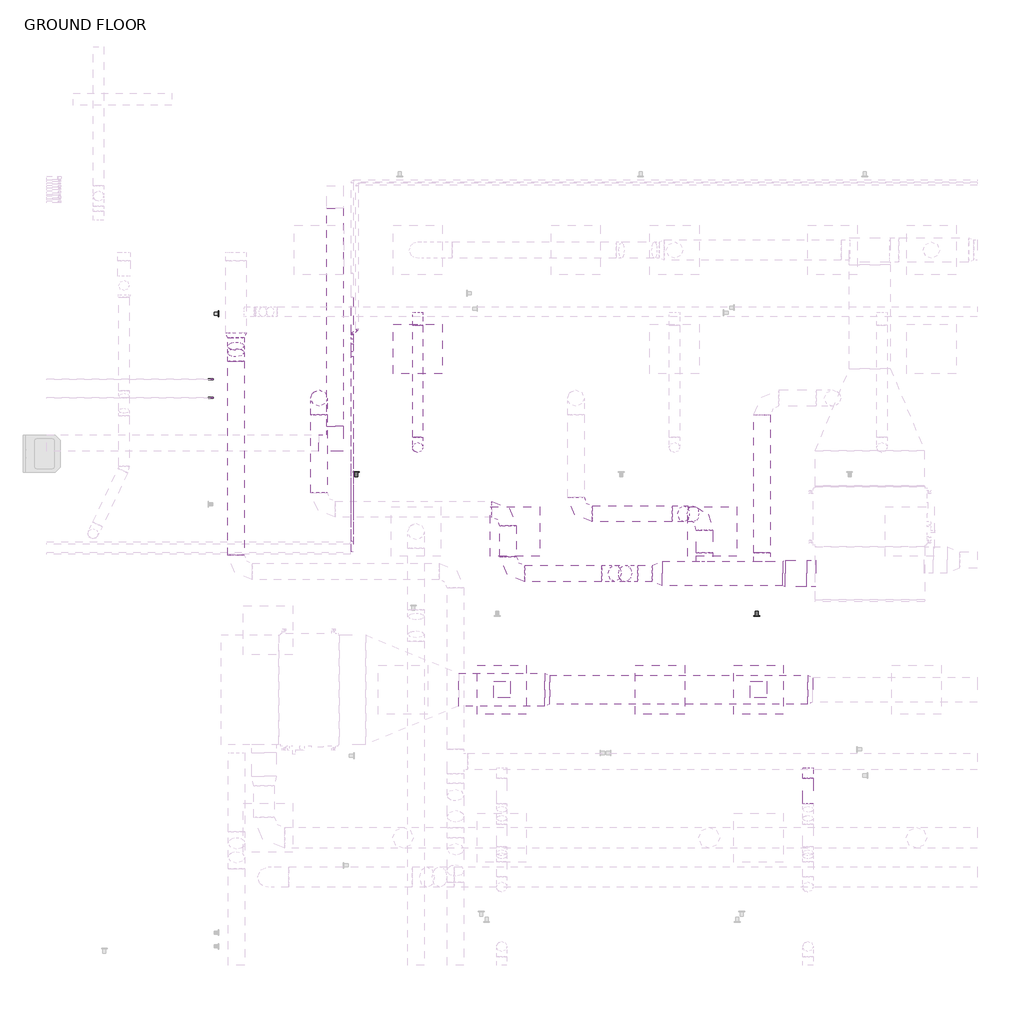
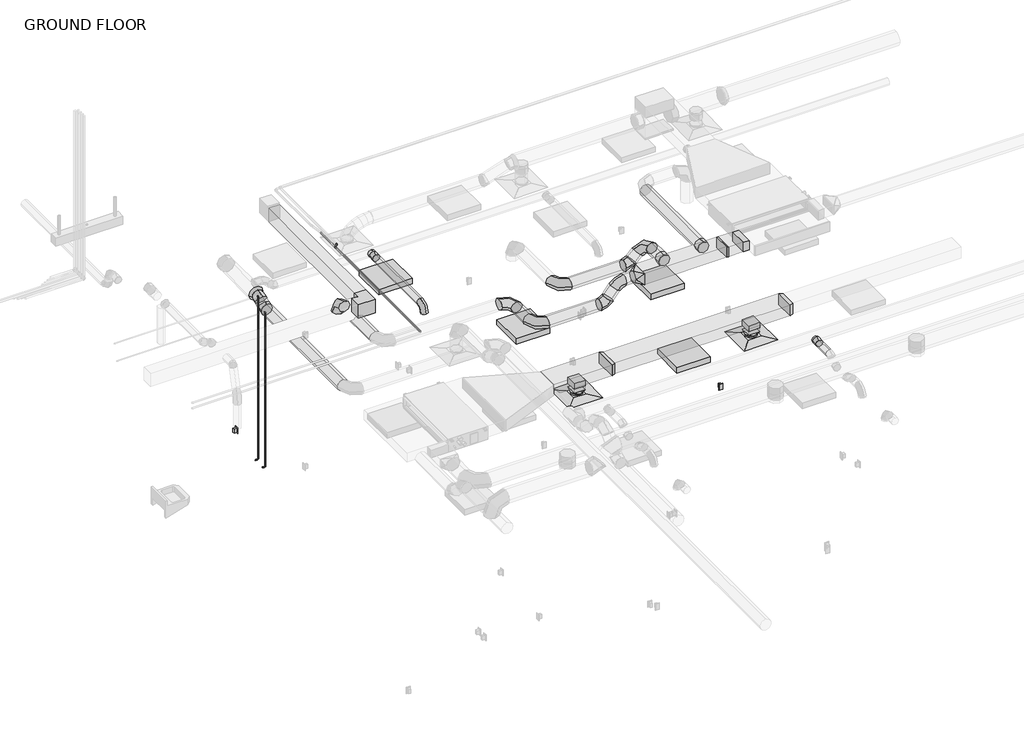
# One storey, part 14 of 20: 26 duct fittings, 22 duct segments, 9 pipe segments, 6 pipe fittings, 4 light fixtures, 2 air terminals, 2 switching devices, 1 proxy.
"""IFC4 building model written with IfcOpenShell, lengths in millimetres."""

from ifc_helpers import new_model, si_unit, point, frame, frame_2d, origin, place, context, project, spatial, polyline, circle_curve, trimmed, segment, composite_curve, outline, extrude, transform, mapped, element, save
from components import air_terminal_e9020785, duplex_receptacle_countertop_10251bba, rectangular_elbow_mitered_transition_standard_eb9bf791, rectangular_takeoff_standard_68f80ab3, rectangular_takeoff_standard_d07ea574, rectangular_transition_angle_45_degree_0521c937, rectangular_transition_angle_45_degree_791ae252, rectangular_transition_angle_45_degree_a1440fe9, rectangular_to_round_transition_angle_45_degree_5a025447, rectangular_to_round_transition_angle_45_degree_f8b25ec9, round_elbow_1_d_fe38274b, round_elbow_1_d_a253342a, round_elbow_1_d_c80420c1, round_elbow_1_d_ab3aa7ba, round_elbow_1_d_20610a6e, round_takeoff_standard_d3b0d0f9, round_takeoff_standard_272bb003, round_takeoff_standard_17dc06e3, round_transition_angle_45_degree_605ec02d, troffer_corner_insert_2x2_3lamp_e67c7f8f, elbow_generic_standard_1964ee4a, elbow_generic_standard_a088f956

model = new_model("IFC4")

# Units and contexts
model_context = context("Model", 3, world=origin())
ifc_project = project(units=[si_unit("LENGTHUNIT", "METRE", prefix="MILLI")], contexts=[model_context])

# Site, building, storey
site = spatial("IfcSite", under=ifc_project)
building = spatial("IfcBuilding", under=site)
storey = spatial("IfcBuildingStorey", under=building, Name="GROUND FLOOR", Elevation=30480.0)

# Air terminals
placement = place(None, origin())
air_terminal_shape = air_terminal_e9020785(model_context)
element("IfcAirTerminal", 1, ObjectType="Supply Diffuser - Rectangular Face Round Neck - Hosted : 24\"x24\" Face 8\" Neck - Hosted", at=placement, inside=storey, context=model_context, shape_type="MappedRepresentation", body=[
    mapped(air_terminal_shape, transform((-799.1454607, 1382.1195005, 33223.2), x_axis=(0.0, -1.0, 0.0), y_axis=(-1.0, 0.0, 0.0), z_axis=(0.0, 0.0, -1.0))),
])
element("IfcAirTerminal", 2, ObjectType="Supply Diffuser - Rectangular Face Round Neck - Hosted : 24\"x24\" Face 8\" Neck - Hosted", at=placement, inside=storey, context=model_context, shape_type="MappedRepresentation", body=[
    mapped(air_terminal_shape, transform((-3970.9704607, 1382.1195005, 33223.2), x_axis=(0.0, -1.0, 0.0), y_axis=(-1.0, 0.0, 0.0), z_axis=(0.0, 0.0, -1.0))),
])

# Proxy
duplex_receptacle_countertop_shape = duplex_receptacle_countertop_10251bba(model_context)
element("IfcBuildingElementProxy", 3, Name="Duplex Receptacle : Standard", ObjectType="Duplex Receptacle : Standard", at=placement, inside=storey, context=model_context, shape_type="MappedRepresentation", body=[
    mapped(duplex_receptacle_countertop_shape, transform((-7469.8204607, 6025.6008767, 30937.2), x_axis=(0.0, 1.0, 0.0), y_axis=(0.0, 0.0, 1.0), z_axis=(1.0, 0.0, 0.0))),
])

# Duct fittings
rectangular_elbow_mitered_transition_standard_shape = rectangular_elbow_mitered_transition_standard_eb9bf791(model_context)
element("IfcDuctFitting", 4, ObjectType="Rectangular Elbow - Mitered - Transition : Standard", at=placement, inside=storey, context=model_context, shape_type="MappedRepresentation", body=[
    mapped(rectangular_elbow_mitered_transition_standard_shape, transform((-6029.8204015, 4430.1195005, 33807.4), x_axis=(1.0, 0.0, 0.0), y_axis=(0.0, 1.0, 0.0), z_axis=(0.0, 0.0, 1.0))),
])
rectangular_takeoff_standard_shape = rectangular_takeoff_standard_68f80ab3(model_context)
element("IfcDuctFitting", 5, ObjectType="Rectangular Takeoff : Standard", at=placement, inside=storey, context=model_context, shape_type="MappedRepresentation", body=[
    mapped(rectangular_takeoff_standard_shape, transform((-101.8689282, 2818.301218, 33947.89375), x_axis=(-1.0, 0.0, 0.0), y_axis=(0.0, 1.0, 0.0), z_axis=(0.0, 0.0, -1.0))),
])
rectangular_takeoff_standard_2_shape = rectangular_takeoff_standard_d07ea574(model_context)
element("IfcDuctFitting", 6, ObjectType="Rectangular Takeoff : Standard", at=placement, inside=storey, context=model_context, shape_type="MappedRepresentation", body=[
    mapped(rectangular_takeoff_standard_2_shape, transform((-799.1454607, 1382.1195005, 33502.6), x_axis=(0.0, 0.0, -1.0), y_axis=(1.0, 0.0, 0.0), z_axis=(0.0, -1.0, 0.0))),
])
element("IfcDuctFitting", 7, ObjectType="Rectangular Takeoff : Standard", at=placement, inside=storey, context=model_context, shape_type="MappedRepresentation", body=[
    mapped(rectangular_takeoff_standard_2_shape, transform((-3970.9704607, 1382.1195005, 33502.6), x_axis=(0.0, 0.0, -1.0), y_axis=(1.0, 0.0, 0.0), z_axis=(0.0, -1.0, 0.0))),
])
rectangular_transition_angle_45_degree_shape = rectangular_transition_angle_45_degree_0521c937(model_context)
element("IfcDuctFitting", 8, ObjectType="Rectangular Transition - Angle : 45 Degree", at=placement, inside=storey, context=model_context, shape_type="MappedRepresentation", body=[
    mapped(rectangular_transition_angle_45_degree_shape, transform((-471.6175144, 2818.301218, 33947.89375), x_axis=(-1.0, 0.0, 0.0), y_axis=(0.0, -1.0, 0.0), z_axis=(0.0, 0.0, 1.0))),
])
rectangular_transition_angle_45_degree_2_shape = rectangular_transition_angle_45_degree_791ae252(model_context)
element("IfcDuctFitting", 9, ObjectType="Rectangular Transition - Angle : 45 Degree", at=placement, inside=storey, context=model_context, shape_type="MappedRepresentation", body=[
    mapped(rectangular_transition_angle_45_degree_2_shape, transform((-3441.5200089, 1382.1195005, 33604.2), x_axis=(1.0, 0.0, 0.0), y_axis=(0.0, 1.0, 0.0), z_axis=(0.0, 0.0, 1.0))),
])
rectangular_transition_angle_45_degree_3_shape = rectangular_transition_angle_45_degree_a1440fe9(model_context)
element("IfcDuctFitting", 10, ObjectType="Rectangular Transition - Angle : 45 Degree", at=placement, inside=storey, context=model_context, shape_type="MappedRepresentation", body=[
    mapped(rectangular_transition_angle_45_degree_3_shape, transform((-189.5454607, 1382.1195005, 33604.2), x_axis=(1.0, 0.0, 0.0), y_axis=(0.0, 1.0, 0.0), z_axis=(0.0, 0.0, 1.0))),
])
rectangular_to_round_transition_angle_45_degree_shape = rectangular_to_round_transition_angle_45_degree_5a025447(model_context)
element("IfcDuctFitting", 11, ObjectType="Rectangular to Round Transition - Angle : 45 Degree", at=placement, inside=storey, context=model_context, shape_type="MappedRepresentation", body=[
    mapped(rectangular_to_round_transition_angle_45_degree_shape, transform((-799.1454607, 1382.1195005, 33327.975), x_axis=(0.0, 0.0, -1.0), y_axis=(1.0, 0.0, 0.0), z_axis=(0.0, -1.0, 0.0))),
])
element("IfcDuctFitting", 12, ObjectType="Rectangular to Round Transition - Angle : 45 Degree", at=placement, inside=storey, context=model_context, shape_type="MappedRepresentation", body=[
    mapped(rectangular_to_round_transition_angle_45_degree_shape, transform((-3970.9704607, 1382.1195005, 33327.975), x_axis=(0.0, 0.0, -1.0), y_axis=(1.0, 0.0, 0.0), z_axis=(0.0, -1.0, 0.0))),
])
rectangular_to_round_transition_angle_45_degree_2_shape = rectangular_to_round_transition_angle_45_degree_f8b25ec9(model_context)
element("IfcDuctFitting", 13, ObjectType="Rectangular to Round Transition - Angle : 45 Degree", at=placement, inside=storey, context=model_context, shape_type="MappedRepresentation", body=[
    mapped(rectangular_to_round_transition_angle_45_degree_2_shape, transform((-1989.2675144, 2818.301218, 33947.89375), x_axis=(-1.0, 0.0, 0.0), y_axis=(0.0, -1.0, 0.0), z_axis=(0.0, 0.0, 1.0))),
])
round_elbow_1_d_shape = round_elbow_1_d_fe38274b(model_context)
element("IfcDuctFitting", 14, ObjectType="Round Elbow : 1 D", at=placement, inside=storey, context=model_context, shape_type="MappedRepresentation", body=[
    mapped(round_elbow_1_d_shape, transform((-2636.3455027, 2818.301218, 33629.6), x_axis=(1.0, 0.0, 0.0), y_axis=(0.0, 0.0, 1.0), z_axis=(0.0, -1.0, 0.0))),
])
element("IfcDuctFitting", 15, ObjectType="Round Elbow : 1 D", at=placement, inside=storey, context=model_context, shape_type="MappedRepresentation", body=[
    mapped(round_elbow_1_d_shape, transform((-2387.6671708, 2818.301218, 33947.89375), x_axis=(0.6156614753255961, 0.0, 0.7880107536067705), y_axis=(0.7880107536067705, 0.0, -0.6156614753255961), z_axis=(0.0, 1.0, 0.0))),
])
round_elbow_1_d_2_shape = round_elbow_1_d_a253342a(model_context)
element("IfcDuctFitting", 16, ObjectType="Round Elbow : 1 D", at=placement, inside=storey, context=model_context, shape_type="MappedRepresentation", body=[
    mapped(round_elbow_1_d_2_shape, transform((-6228.3954607, 4982.5695005, 33629.6), x_axis=(0.0, 0.0, 1.0), y_axis=(0.0, -1.0, 0.0), z_axis=(1.0, 0.0, 0.0))),
])
element("IfcDuctFitting", 17, ObjectType="Round Elbow : 1 D", at=placement, inside=storey, context=model_context, shape_type="MappedRepresentation", body=[
    mapped(round_elbow_1_d_2_shape, transform((-3891.5954607, 3610.9695005, 33629.6), x_axis=(0.0, 1.0, 0.0), y_axis=(-1.0, 0.0, 0.0), z_axis=(0.0, 0.0, 1.0))),
])
element("IfcDuctFitting", 18, ObjectType="Round Elbow : 1 D", at=placement, inside=storey, context=model_context, shape_type="MappedRepresentation", body=[
    mapped(round_elbow_1_d_2_shape, transform((-3891.5954607, 2818.301218, 33629.6), x_axis=(0.0, -1.0, 0.0), y_axis=(1.0, 0.0, 0.0), z_axis=(0.0, 0.0, 1.0))),
])
element("IfcDuctFitting", 19, ObjectType="Round Elbow : 1 D", at=placement, inside=storey, context=model_context, shape_type="MappedRepresentation", body=[
    mapped(round_elbow_1_d_2_shape, transform((-3056.5704607, 3554.901218, 33629.6), x_axis=(0.0, -1.0, 0.0), y_axis=(1.0, 0.0, 0.0), z_axis=(0.0, 0.0, 1.0))),
])
element("IfcDuctFitting", 20, ObjectType="Round Elbow : 1 D", at=placement, inside=storey, context=model_context, shape_type="MappedRepresentation", body=[
    mapped(round_elbow_1_d_2_shape, transform((-1465.5538665, 3554.901218, 33947.89375), x_axis=(0.7071067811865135, 0.0, 0.7071067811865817), y_axis=(0.0, -1.0000000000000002, 0.0), z_axis=(0.7071067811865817, 0.0, -0.7071067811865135))),
])
round_elbow_1_d_3_shape = round_elbow_1_d_c80420c1(model_context)
element("IfcDuctFitting", 21, ObjectType="Round Elbow : 1 D", at=placement, inside=storey, context=model_context, shape_type="MappedRepresentation", body=[
    mapped(round_elbow_1_d_3_shape, transform((-5009.1954607, 4372.9695005, 33464.5), x_axis=(0.0, -1.0, 0.0), y_axis=(0.0, 0.0, -1.0), z_axis=(1.0, 0.0, 0.0))),
])
round_elbow_1_d_4_shape = round_elbow_1_d_ab3aa7ba(model_context)
element("IfcDuctFitting", 22, ObjectType="Round Elbow : 1 D", at=placement, inside=storey, context=model_context, shape_type="MappedRepresentation", body=[
    mapped(round_elbow_1_d_4_shape, transform((-1783.8476165, 3554.901218, 33629.6), x_axis=(-0.7071067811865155, 0.0, -0.7071067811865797), y_axis=(-0.7071067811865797, 0.0, 0.7071067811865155), z_axis=(0.0, 1.0, 0.0))),
])
round_elbow_1_d_5_shape = round_elbow_1_d_20610a6e(model_context)
element("IfcDuctFitting", 23, ObjectType="Round Elbow : 1 D", at=placement, inside=storey, context=model_context, shape_type="MappedRepresentation", body=[
    mapped(round_elbow_1_d_5_shape, transform((-7253.9204607, 5672.1243299, 33629.6), x_axis=(0.0, -1.0, 0.0), y_axis=(0.0, 0.0, -1.0), z_axis=(1.0, 0.0, 0.0))),
])
element("IfcDuctFitting", 24, ObjectType="Round Elbow : 1 D", at=placement, inside=storey, context=model_context, shape_type="MappedRepresentation", body=[
    mapped(round_elbow_1_d_5_shape, transform((-7253.9204607, 5496.1479679, 33528.0), x_axis=(0.0, -0.8660254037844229, -0.5000000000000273), y_axis=(0.0, -0.5000000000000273, 0.8660254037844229), z_axis=(-1.0, 0.0, 0.0))),
])
round_takeoff_standard_shape = round_takeoff_standard_d3b0d0f9(model_context)
element("IfcDuctFitting", 25, ObjectType="Round Takeoff : Standard", at=placement, inside=storey, context=model_context, shape_type="MappedRepresentation", body=[
    mapped(round_takeoff_standard_shape, transform((-754.6339071, 2970.701218, 33947.89375), x_axis=(0.0, 1.0, 0.0), y_axis=(1.0, 0.0, 0.0), z_axis=(0.0, 0.0, -1.0))),
])
element("IfcDuctFitting", 26, ObjectType="Round Takeoff : Standard", at=placement, inside=storey, context=model_context, shape_type="MappedRepresentation", body=[
    mapped(round_takeoff_standard_shape, transform((-1465.5538665, 2970.701218, 33947.89375), x_axis=(0.0, 1.0, 0.0), y_axis=(1.0, 0.0, 0.0), z_axis=(0.0, 0.0, -1.0))),
])
round_takeoff_standard_2_shape = round_takeoff_standard_272bb003(model_context)
element("IfcDuctFitting", 27, ObjectType="Round Takeoff : Standard", at=placement, inside=storey, context=model_context, shape_type="MappedRepresentation", body=[
    mapped(round_takeoff_standard_2_shape, transform((-189.5454607, 391.7414929, 33528.0), x_axis=(0.0, -1.0, 0.0), y_axis=(-1.0, 0.0, 0.0), z_axis=(0.0, 0.0, -1.0))),
])
round_takeoff_standard_3_shape = round_takeoff_standard_17dc06e3(model_context)
element("IfcDuctFitting", 28, ObjectType="Round Takeoff : Standard", at=placement, inside=storey, context=model_context, shape_type="MappedRepresentation", body=[
    mapped(round_takeoff_standard_3_shape, transform((-5009.1954607, 5985.8695005, 33464.5), x_axis=(0.0, -1.0, 0.0), y_axis=(-1.0, 0.0, 0.0), z_axis=(0.0, 0.0, -1.0))),
])
round_transition_angle_45_degree_shape = round_transition_angle_45_degree_605ec02d(model_context)
element("IfcDuctFitting", 29, ObjectType="Round Transition - Angle : 45 Degree", at=placement, inside=storey, context=model_context, shape_type="MappedRepresentation", body=[
    mapped(round_transition_angle_45_degree_shape, transform((-7253.9204607, 5726.5716058, 33629.6), x_axis=(0.0, 1.0, 0.0), y_axis=(-1.0, 0.0, 0.0), z_axis=(0.0, 0.0, 1.0))),
])

# Duct segments
element("IfcDuctSegment", 30, ObjectType="Mitered Elbows / Taps", at=placement, inside=storey, context=model_context, shape_type="SweptSolid", body=[
    extrude(outline(polyline([(-4505.3833638, 1178.9195005), (-4505.3833638, 1585.3195005), (-3441.5200089, 1585.3195005), (-3441.5200089, 1178.9195005), (-4505.3833638, 1178.9195005)])), frame((0.0, 0.0, 33502.6), z_axis=(0.0, 0.0, 1.0), x_axis=(1.0, 0.0, 0.0)), (0.0, 0.0, 1.0), 203.2),
])
element("IfcDuctSegment", 31, ObjectType="Mitered Elbows / Taps", at=placement, inside=storey, context=model_context, shape_type="SweptSolid", body=[
    extrude(outline(polyline([(-3380.1989844, 1204.3195005), (-3380.1989844, 1559.9195005), (-189.5454607, 1559.9195005), (-189.5454607, 1204.3195005), (-3380.1989844, 1204.3195005)])), frame((0.0, 0.0, 33502.6), z_axis=(0.0, 0.0, 1.0), x_axis=(1.0, 0.0, 0.0)), (0.0, 0.0, 1.0), 203.2),
])
element("IfcDuctSegment", 32, ObjectType="Mitered Elbows / Taps", at=placement, inside=storey, context=model_context, shape_type="SweptSolid", body=[
    extrude(outline(polyline([(-900.7454607, 1483.7195005), (-697.5454607, 1483.7195005), (-697.5454607, 1280.5195005), (-900.7454607, 1280.5195005), (-900.7454607, 1483.7195005)])), frame((0.0, 0.0, 33327.975), z_axis=(0.0, 0.0, 1.0), x_axis=(1.0, 0.0, 0.0)), (0.0, 0.0, 1.0), 73.025),
])
element("IfcDuctSegment", 33, ObjectType="Mitered Elbows / Taps", at=placement, inside=storey, context=model_context, shape_type="SweptSolid", body=[
    extrude(outline(polyline([(-4072.5704607, 1483.7195005), (-3869.3704607, 1483.7195005), (-3869.3704607, 1280.5195005), (-4072.5704607, 1280.5195005), (-4072.5704607, 1483.7195005)])), frame((0.0, 0.0, 33327.975), z_axis=(0.0, 0.0, 1.0), x_axis=(1.0, 0.0, 0.0)), (0.0, 0.0, 1.0), 73.025),
])
element("IfcDuctSegment", 34, ObjectType="Mitered Elbows / Taps", at=placement, inside=storey, context=model_context, shape_type="SweptSolid", body=[
    extrude(outline(polyline([(-1989.2675144, 2665.901218), (-1989.2675144, 2970.701218), (-502.2780266, 2970.701218), (-502.2780266, 2665.901218), (-1989.2675144, 2665.901218)])), frame((0.0, 0.0, 33846.29375), z_axis=(0.0, 0.0, 1.0), x_axis=(1.0, 0.0, 0.0)), (0.0, 0.0, 1.0), 203.2),
])
element("IfcDuctSegment", 35, ObjectType="Mitered Elbows / Taps", at=placement, inside=storey, context=model_context, shape_type="SweptSolid", body=[
    extrude(outline(polyline([(-471.6175144, 2653.201218), (-471.6175144, 2983.401218), (-203.4689282, 2983.401218), (-203.4689282, 2653.201218), (-471.6175144, 2653.201218)])), frame((0.0, 0.0, 33858.99375), z_axis=(0.0, 0.0, 1.0), x_axis=(1.0, 0.0, 0.0)), (0.0, 0.0, 1.0), 177.8),
])
element("IfcDuctSegment", 36, ObjectType="Mitered Elbows / Tees", at=placement, inside=storey, context=model_context, shape_type="SweptSolid", body=[
    extrude(outline(polyline([(-6131.4204015, 7325.7195005), (-5928.2204015, 7325.7195005), (-5928.2204015, 4633.3195005), (-6131.4204015, 4633.3195005), (-6131.4204015, 7325.7195005)])), frame((0.0, 0.0, 33680.4), z_axis=(0.0, 0.0, 1.0), x_axis=(1.0, 0.0, 0.0)), (0.0, 0.0, 1.0), 254.0),
])
element("IfcDuctSegment", 37, ObjectType="Taps / Short Radius", at=placement, inside=storey, context=model_context, shape_type="SweptSolid", body=[
    extrude(outline(composite_curve([segment(trimmed(circle_curve(frame_2d((33629.6, -6228.3954607)), 101.6), [point((33629.6, -6329.9954607))], [point((33528.0, -6228.3954607))], False, "CARTESIAN"), True, "CONTINUOUS"), segment(trimmed(circle_curve(frame_2d((33629.6, -6228.3954607)), 101.6), [point((33528.0, -6228.3954607))], [point((33629.6, -6126.7954607))], False, "CARTESIAN"), True, "CONTINUOUS"), segment(trimmed(circle_curve(frame_2d((33629.6, -6228.3954607)), 101.6), [point((33629.6, -6126.7954607))], [point((33731.2, -6228.3954607))], False, "CARTESIAN"), True, "CONTINUOUS"), segment(trimmed(circle_curve(frame_2d((33629.6, -6228.3954607)), 101.6), [point((33731.2, -6228.3954607))], [point((33629.6, -6329.9954607))], False, "CARTESIAN"), True, "CONTINUOUS")], self_intersect=False)), frame((0.0, 3814.1695005, 0.0), z_axis=(0.0, 1.0, 0.0), x_axis=(0.0, 0.0, 1.0)), (0.0, 0.0, 1.0), 965.2),
])
element("IfcDuctSegment", 38, ObjectType="Taps / Short Radius", at=placement, inside=storey, context=model_context, shape_type="SweptSolid", body=[
    extrude(outline(composite_curve([segment(trimmed(circle_curve(frame_2d((33629.6, -3891.5954607)), 101.6), [point((33629.6, -3993.1954607))], [point((33528.0, -3891.5954607))], False, "CARTESIAN"), True, "CONTINUOUS"), segment(trimmed(circle_curve(frame_2d((33629.6, -3891.5954607)), 101.6), [point((33528.0, -3891.5954607))], [point((33629.6, -3789.9954607))], False, "CARTESIAN"), True, "CONTINUOUS"), segment(trimmed(circle_curve(frame_2d((33629.6, -3891.5954607)), 101.6), [point((33629.6, -3789.9954607))], [point((33731.2, -3891.5954607))], False, "CARTESIAN"), True, "CONTINUOUS"), segment(trimmed(circle_curve(frame_2d((33629.6, -3891.5954607)), 101.6), [point((33731.2, -3891.5954607))], [point((33629.6, -3993.1954607))], False, "CARTESIAN"), True, "CONTINUOUS")], self_intersect=False)), frame((0.0, 3021.501218, 0.0), z_axis=(0.0, 1.0, 0.0), x_axis=(0.0, 0.0, 1.0)), (0.0, 0.0, 1.0), 386.2682826),
])
element("IfcDuctSegment", 39, ObjectType="Taps / Short Radius", at=placement, inside=storey, context=model_context, shape_type="SweptSolid", body=[
    extrude(outline(composite_curve([segment(trimmed(circle_curve(frame_2d((-6228.3954607, 4982.5695005)), 101.6), [point((-6228.3954607, 5084.1695005))], [point((-6126.7954607, 4982.5695005))], False, "CARTESIAN"), True, "CONTINUOUS"), segment(trimmed(circle_curve(frame_2d((-6228.3954607, 4982.5695005)), 101.6), [point((-6126.7954607, 4982.5695005))], [point((-6228.3954607, 4880.9695005))], False, "CARTESIAN"), True, "CONTINUOUS"), segment(trimmed(circle_curve(frame_2d((-6228.3954607, 4982.5695005)), 101.6), [point((-6228.3954607, 4880.9695005))], [point((-6329.9954607, 4982.5695005))], False, "CARTESIAN"), True, "CONTINUOUS"), segment(trimmed(circle_curve(frame_2d((-6228.3954607, 4982.5695005)), 101.6), [point((-6329.9954607, 4982.5695005))], [point((-6228.3954607, 5084.1695005))], False, "CARTESIAN"), True, "CONTINUOUS")], self_intersect=False)), frame((0.0, 0.0, 33324.8), z_axis=(0.0, 0.0, 1.0), x_axis=(1.0, 0.0, 0.0)), (0.0, 0.0, 1.0), 101.6),
])
element("IfcDuctSegment", 40, ObjectType="Taps / Short Radius", at=placement, inside=storey, context=model_context, shape_type="SweptSolid", body=[
    extrude(outline(composite_curve([segment(trimmed(circle_curve(frame_2d((33947.89375, -754.6339071)), 101.6), [point((33947.89375, -856.2339071))], [point((33846.29375, -754.6339071))], False, "CARTESIAN"), True, "CONTINUOUS"), segment(trimmed(circle_curve(frame_2d((33947.89375, -754.6339071)), 101.6), [point((33846.29375, -754.6339071))], [point((33947.89375, -653.0339071))], False, "CARTESIAN"), True, "CONTINUOUS"), segment(trimmed(circle_curve(frame_2d((33947.89375, -754.6339071)), 101.6), [point((33947.89375, -653.0339071))], [point((34049.49375, -754.6339071))], False, "CARTESIAN"), True, "CONTINUOUS"), segment(trimmed(circle_curve(frame_2d((33947.89375, -754.6339071)), 101.6), [point((34049.49375, -754.6339071))], [point((33947.89375, -856.2339071))], False, "CARTESIAN"), True, "CONTINUOUS")], self_intersect=False)), frame((0.0, 3072.301218, 0.0), z_axis=(0.0, 1.0, 0.0), x_axis=(0.0, 0.0, 1.0)), (0.0, 0.0, 1.0), 1707.0682826),
])
element("IfcDuctSegment", 41, ObjectType="Taps / Short Radius", at=placement, inside=storey, context=model_context, shape_type="SweptSolid", body=[
    extrude(outline(composite_curve([segment(trimmed(circle_curve(frame_2d((0.0, 63.5)), 63.5), [point((-63.5, 63.5))], [point((0.0, 127.0))], False, "CARTESIAN"), True, "CONTINUOUS"), segment(trimmed(circle_curve(frame_2d((0.0, 63.5)), 63.5), [point((0.0, 127.0))], [point((63.5, 63.5))], False, "CARTESIAN"), True, "CONTINUOUS"), segment(trimmed(circle_curve(frame_2d((0.0, 63.5)), 63.5), [point((63.5, 63.5))], [point((0.0, 0.0))], False, "CARTESIAN"), True, "CONTINUOUS"), segment(trimmed(circle_curve(frame_2d((0.0, 63.5)), 63.5), [point((0.0, 0.0))], [point((-63.5, 63.5))], False, "CARTESIAN"), True, "CONTINUOUS")], self_intersect=False)), frame((-5009.1954607, 4309.4695005, 33324.8), z_axis=(0.0, -1.023181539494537e-12, 1.0), x_axis=(1.0, 0.0, 0.0)), (0.0, 0.0, 1.0), 12.7),
])
element("IfcDuctSegment", 42, ObjectType="Taps / Short Radius", at=placement, inside=storey, context=model_context, shape_type="SweptSolid", body=[
    extrude(outline(composite_curve([segment(trimmed(circle_curve(frame_2d((33464.5, -5009.1954607)), 63.5), [point((33464.5, -5072.6954607))], [point((33401.0, -5009.1954607))], False, "CARTESIAN"), True, "CONTINUOUS"), segment(trimmed(circle_curve(frame_2d((33464.5, -5009.1954607)), 63.5), [point((33401.0, -5009.1954607))], [point((33464.5, -4945.6954607))], False, "CARTESIAN"), True, "CONTINUOUS"), segment(trimmed(circle_curve(frame_2d((33464.5, -5009.1954607)), 63.5), [point((33464.5, -4945.6954607))], [point((33528.0, -5009.1954607))], False, "CARTESIAN"), True, "CONTINUOUS"), segment(trimmed(circle_curve(frame_2d((33464.5, -5009.1954607)), 63.5), [point((33528.0, -5009.1954607))], [point((33464.5, -5072.6954607))], False, "CARTESIAN"), True, "CONTINUOUS")], self_intersect=False)), frame((0.0, 4499.9695005, 0.0), z_axis=(0.0, 1.0, 0.0), x_axis=(0.0, 0.0, 1.0)), (0.0, 0.0, 1.0), 1384.3),
])
element("IfcDuctSegment", 43, ObjectType="Taps / Short Radius", at=placement, inside=storey, context=model_context, shape_type="SweptSolid", body=[
    extrude(outline(composite_curve([segment(trimmed(circle_curve(frame_2d((33528.0, -7253.9204607)), 101.6), [point((33528.0, -7355.5204607))], [point((33426.4, -7253.9204607))], False, "CARTESIAN"), True, "CONTINUOUS"), segment(trimmed(circle_curve(frame_2d((33528.0, -7253.9204607)), 101.6), [point((33426.4, -7253.9204607))], [point((33528.0, -7152.3204607))], False, "CARTESIAN"), True, "CONTINUOUS"), segment(trimmed(circle_curve(frame_2d((33528.0, -7253.9204607)), 101.6), [point((33528.0, -7152.3204607))], [point((33629.6, -7253.9204607))], False, "CARTESIAN"), True, "CONTINUOUS"), segment(trimmed(circle_curve(frame_2d((33528.0, -7253.9204607)), 101.6), [point((33629.6, -7253.9204607))], [point((33528.0, -7355.5204607))], False, "CARTESIAN"), True, "CONTINUOUS")], self_intersect=False)), frame((0.0, 3045.096647, 0.0), z_axis=(0.0, 1.0, 0.0), x_axis=(0.0, 0.0, 1.0)), (0.0, 0.0, 1.0), 2396.604045),
])
element("IfcDuctSegment", 44, ObjectType="Taps / Short Radius", at=placement, inside=storey, context=model_context, shape_type="SweptSolid", body=[
    extrude(outline(composite_curve([segment(trimmed(circle_curve(frame_2d((0.0, -101.6000001)), 101.6), [point((-101.6, -101.6000001))], [point((0.0, 0.0))], False, "CARTESIAN"), True, "CONTINUOUS"), segment(trimmed(circle_curve(frame_2d((0.0, -101.6000001)), 101.6), [point((0.0, 0.0))], [point((101.6, -101.6000001))], False, "CARTESIAN"), True, "CONTINUOUS"), segment(trimmed(circle_curve(frame_2d((0.0, -101.6000001)), 101.6), [point((101.6, -101.6000001))], [point((0.0, -203.2))], False, "CARTESIAN"), True, "CONTINUOUS"), segment(trimmed(circle_curve(frame_2d((0.0, -101.6000001)), 101.6), [point((0.0, -203.2))], [point((-101.6, -101.6000001))], False, "CARTESIAN"), True, "CONTINUOUS")], self_intersect=False)), frame((-7253.9204607, 5594.100692, 33467.2354569), z_axis=(0.0, 0.8660254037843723, 0.5000000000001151), x_axis=(1.0, 0.0, 0.0)), (0.0, 0.0, 1.0), 94.3054482),
])
element("IfcDuctSegment", 45, ObjectType="Taps / Short Radius", at=placement, inside=storey, context=model_context, shape_type="SweptSolid", body=[
    extrude(outline(composite_curve([segment(trimmed(circle_curve(frame_2d((33528.0, -189.5454607)), 63.5), [point((33528.0, -126.0454607))], [point((33591.5, -189.5454607))], False, "CARTESIAN"), True, "CONTINUOUS"), segment(trimmed(circle_curve(frame_2d((33528.0, -189.5454607)), 63.5), [point((33591.5, -189.5454607))], [point((33528.0, -253.0454607))], False, "CARTESIAN"), True, "CONTINUOUS"), segment(trimmed(circle_curve(frame_2d((33528.0, -189.5454607)), 63.5), [point((33528.0, -253.0454607))], [point((33464.5, -189.5454607))], False, "CARTESIAN"), True, "CONTINUOUS"), segment(trimmed(circle_curve(frame_2d((33528.0, -189.5454607)), 63.5), [point((33464.5, -189.5454607))], [point((33528.0, -126.0454607))], False, "CARTESIAN"), True, "CONTINUOUS")], self_intersect=False)), frame((0.0, -23.6803249, 0.0), z_axis=(0.0, 1.0, 0.0), x_axis=(0.0, 0.0, 1.0)), (0.0, 0.0, 1.0), 313.8218179),
])
element("IfcDuctSegment", 46, ObjectType="Taps / Short Radius", at=placement, inside=storey, context=model_context, shape_type="SweptSolid", body=[
    extrude(outline(composite_curve([segment(trimmed(circle_curve(frame_2d((2818.301218, 33629.6)), 101.6), [point((2716.701218, 33629.6))], [point((2818.301218, 33731.2))], False, "CARTESIAN"), True, "CONTINUOUS"), segment(trimmed(circle_curve(frame_2d((2818.301218, 33629.6)), 101.6), [point((2818.301218, 33731.2))], [point((2919.901218, 33629.6))], False, "CARTESIAN"), True, "CONTINUOUS"), segment(trimmed(circle_curve(frame_2d((2818.301218, 33629.6)), 101.6), [point((2919.901218, 33629.6))], [point((2818.301218, 33528.0))], False, "CARTESIAN"), True, "CONTINUOUS"), segment(trimmed(circle_curve(frame_2d((2818.301218, 33629.6)), 101.6), [point((2818.301218, 33528.0))], [point((2716.701218, 33629.6))], False, "CARTESIAN"), True, "CONTINUOUS")], self_intersect=False)), frame((-3688.3954607, 0.0, 0.0), z_axis=(1.0, 0.0, 0.0), x_axis=(0.0, 1.0, 0.0)), (0.0, 0.0, 1.0), 952.942696),
])
element("IfcDuctSegment", 47, ObjectType="Taps / Short Radius", at=placement, inside=storey, context=model_context, shape_type="SweptSolid", body=[
    extrude(outline(composite_curve([segment(trimmed(circle_curve(frame_2d((0.0, 101.6)), 101.6), [point((0.0, 0.0))], [point((-101.6, 101.6))], False, "CARTESIAN"), True, "CONTINUOUS"), segment(trimmed(circle_curve(frame_2d((0.0, 101.6)), 101.6), [point((-101.6, 101.6))], [point((0.0, 203.2))], False, "CARTESIAN"), True, "CONTINUOUS"), segment(trimmed(circle_curve(frame_2d((0.0, 101.6)), 101.6), [point((0.0, 203.2))], [point((101.6, 101.6))], False, "CARTESIAN"), True, "CONTINUOUS"), segment(trimmed(circle_curve(frame_2d((0.0, 101.6)), 101.6), [point((101.6, 101.6))], [point((0.0, 0.0))], False, "CARTESIAN"), True, "CONTINUOUS")], self_intersect=False)), frame((-2575.3289795, 2716.701218, 33707.6975882), z_axis=(0.6156614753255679, 0.0, 0.7880107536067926), x_axis=(0.7880107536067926, 0.0, -0.6156614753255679)), (0.0, 0.0, 1.0), 205.7060425),
])
element("IfcDuctSegment", 48, ObjectType="Taps / Short Radius", at=placement, inside=storey, context=model_context, shape_type="SweptSolid", body=[
    extrude(outline(composite_curve([segment(trimmed(circle_curve(frame_2d((2818.301218, 33947.89375)), 101.6), [point((2919.901218, 33947.89375))], [point((2818.301218, 33846.29375))], False, "CARTESIAN"), True, "CONTINUOUS"), segment(trimmed(circle_curve(frame_2d((2818.301218, 33947.89375)), 101.6), [point((2818.301218, 33846.29375))], [point((2716.701218, 33947.89375))], False, "CARTESIAN"), True, "CONTINUOUS"), segment(trimmed(circle_curve(frame_2d((2818.301218, 33947.89375)), 101.6), [point((2716.701218, 33947.89375))], [point((2818.301218, 34049.49375))], False, "CARTESIAN"), True, "CONTINUOUS"), segment(trimmed(circle_curve(frame_2d((2818.301218, 33947.89375)), 101.6), [point((2818.301218, 34049.49375))], [point((2919.901218, 33947.89375))], False, "CARTESIAN"), True, "CONTINUOUS")], self_intersect=False)), frame((-2288.5599088, 0.0, 0.0), z_axis=(1.0, 0.0, 0.0), x_axis=(0.0, 1.0, 0.0)), (0.0, 0.0, 1.0), 176.6503454),
])
element("IfcDuctSegment", 49, ObjectType="Taps / Short Radius", at=placement, inside=storey, context=model_context, shape_type="SweptSolid", body=[
    extrude(outline(composite_curve([segment(trimmed(circle_curve(frame_2d((33947.89375, -1465.5538665)), 101.6), [point((33947.89375, -1567.1538665))], [point((33846.29375, -1465.5538665))], False, "CARTESIAN"), True, "CONTINUOUS"), segment(trimmed(circle_curve(frame_2d((33947.89375, -1465.5538665)), 101.6), [point((33846.29375, -1465.5538665))], [point((33947.89375, -1363.9538665))], False, "CARTESIAN"), True, "CONTINUOUS"), segment(trimmed(circle_curve(frame_2d((33947.89375, -1465.5538665)), 101.6), [point((33947.89375, -1363.9538665))], [point((34049.49375, -1465.5538665))], False, "CARTESIAN"), True, "CONTINUOUS"), segment(trimmed(circle_curve(frame_2d((33947.89375, -1465.5538665)), 101.6), [point((34049.49375, -1465.5538665))], [point((33947.89375, -1567.1538665))], False, "CARTESIAN"), True, "CONTINUOUS")], self_intersect=False)), frame((0.0, 3072.301218, 0.0), z_axis=(0.0, 1.0, 0.0), x_axis=(0.0, 0.0, 1.0)), (0.0, 0.0, 1.0), 279.4),
])
element("IfcDuctSegment", 50, ObjectType="Taps / Short Radius", at=placement, inside=storey, context=model_context, shape_type="SweptSolid", body=[
    extrude(outline(composite_curve([segment(trimmed(circle_curve(frame_2d((0.0, -101.6)), 101.6), [point((0.0, 0.0))], [point((101.6, -101.6))], False, "CARTESIAN"), True, "CONTINUOUS"), segment(trimmed(circle_curve(frame_2d((0.0, -101.6)), 101.6), [point((101.6, -101.6))], [point((0.0, -203.2))], False, "CARTESIAN"), True, "CONTINUOUS"), segment(trimmed(circle_curve(frame_2d((0.0, -101.6)), 101.6), [point((0.0, -203.2))], [point((-101.6, -101.6))], False, "CARTESIAN"), True, "CONTINUOUS"), segment(trimmed(circle_curve(frame_2d((0.0, -101.6)), 101.6), [point((-101.6, -101.6))], [point((0.0, 0.0))], False, "CARTESIAN"), True, "CONTINUOUS")], self_intersect=False)), frame((-1724.3317144, 3656.501218, 33689.1159021), z_axis=(0.7071067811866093, 0.0, 0.7071067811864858), x_axis=(0.7071067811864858, 0.0, -0.7071067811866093)), (0.0, 0.0, 1.0), 162.7671422),
])
element("IfcDuctSegment", 51, ObjectType="Taps / Short Radius", at=placement, inside=storey, context=model_context, shape_type="SweptSolid", body=[
    extrude(outline(composite_curve([segment(trimmed(circle_curve(frame_2d((3554.901218, 33629.6)), 101.6), [point((3453.301218, 33629.6))], [point((3554.901218, 33731.2))], False, "CARTESIAN"), True, "CONTINUOUS"), segment(trimmed(circle_curve(frame_2d((3554.901218, 33629.6)), 101.6), [point((3554.901218, 33731.2))], [point((3656.501218, 33629.6))], False, "CARTESIAN"), True, "CONTINUOUS"), segment(trimmed(circle_curve(frame_2d((3554.901218, 33629.6)), 101.6), [point((3656.501218, 33629.6))], [point((3554.901218, 33528.0))], False, "CARTESIAN"), True, "CONTINUOUS"), segment(trimmed(circle_curve(frame_2d((3554.901218, 33629.6)), 101.6), [point((3554.901218, 33528.0))], [point((3453.301218, 33629.6))], False, "CARTESIAN"), True, "CONTINUOUS")], self_intersect=False)), frame((-2853.3704607, 0.0, 0.0), z_axis=(1.0, 0.0, 0.0), x_axis=(0.0, 1.0, 0.0)), (0.0, 0.0, 1.0), 985.3546483),
])

# Light fixtures
troffer_corner_insert_2x2_3lamp_shape = troffer_corner_insert_2x2_3lamp_e67c7f8f(model_context)
element("IfcLightFixture", 52, ObjectType="Troffer Corner Insert : 2x2 3Lamp", at=placement, inside=storey, context=model_context, shape_type="MappedRepresentation", body=[
    mapped(troffer_corner_insert_2x2_3lamp_shape, transform((-5009.1954607, 5592.1695005, 30784.8), x_axis=(1.0, 0.0, 0.0), y_axis=(0.0, 1.0, 0.0), z_axis=(0.0, 0.0, 1.0))),
])
element("IfcLightFixture", 53, ObjectType="Troffer Corner Insert : 2x2 3Lamp", at=placement, inside=storey, context=model_context, shape_type="MappedRepresentation", body=[
    mapped(troffer_corner_insert_2x2_3lamp_shape, transform((-3809.0454607, 3334.7445005, 30784.8), x_axis=(1.0, 0.0, 0.0), y_axis=(0.0, 1.0, 0.0), z_axis=(0.0, 0.0, 1.0))),
])
element("IfcLightFixture", 54, ObjectType="Troffer Corner Insert : 2x2 3Lamp", at=placement, inside=storey, context=model_context, shape_type="MappedRepresentation", body=[
    mapped(troffer_corner_insert_2x2_3lamp_shape, transform((-1370.6454607, 3334.7445005, 30784.8), x_axis=(1.0, 0.0, 0.0), y_axis=(0.0, 1.0, 0.0), z_axis=(0.0, 0.0, 1.0))),
])
element("IfcLightFixture", 55, ObjectType="Troffer Corner Insert : 2x2 3Lamp", at=placement, inside=storey, context=model_context, shape_type="MappedRepresentation", body=[
    mapped(troffer_corner_insert_2x2_3lamp_shape, transform((-2018.3454607, 1382.1195005, 30784.8), x_axis=(1.0, 0.0, 0.0), y_axis=(0.0, 1.0, 0.0), z_axis=(0.0, 0.0, 1.0))),
])

# Pipe fittings
elbow_generic_standard_shape = elbow_generic_standard_1964ee4a(model_context)
element("IfcPipeFitting", 56, ObjectType="Elbow - Generic : Standard", at=placement, inside=storey, context=model_context, shape_type="MappedRepresentation", body=[
    mapped(elbow_generic_standard_shape, transform((-5818.8204607, 5772.7504162, 34023.2999997), x_axis=(-0.7071067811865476, -0.7071067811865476, 0.0), y_axis=(0.7071067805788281, -0.7071067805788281, -4.1459500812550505e-05), z_axis=(2.931629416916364e-05, -2.931629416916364e-05, 0.9999999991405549))),
])
element("IfcPipeFitting", 57, ObjectType="Elbow - Generic : Standard", at=placement, inside=storey, context=model_context, shape_type="MappedRepresentation", body=[
    mapped(elbow_generic_standard_shape, transform((-5760.4443281, 5831.1265488, 34023.2999997), x_axis=(0.7071067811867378, 0.7071067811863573, 0.0), y_axis=(-0.7071067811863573, 0.7071067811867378, 0.0), z_axis=(0.0, 0.0, 1.0))),
])
elbow_generic_standard_2_shape = elbow_generic_standard_a088f956(model_context)
element("IfcPipeFitting", 58, ObjectType="Elbow - Generic : Standard", at=placement, inside=storey, context=model_context, shape_type="MappedRepresentation", body=[
    mapped(elbow_generic_standard_2_shape, transform((-7542.8454607, 5217.5195005, 30886.4), x_axis=(1.0, 0.0, 0.0), y_axis=(0.0, 0.0, 1.0), z_axis=(0.0, -1.0, 0.0))),
])
element("IfcPipeFitting", 59, ObjectType="Elbow - Generic : Standard", at=placement, inside=storey, context=model_context, shape_type="MappedRepresentation", body=[
    mapped(elbow_generic_standard_2_shape, transform((-7542.8454607, 5217.5195005, 34023.3), x_axis=(0.0, 0.0, 1.0), y_axis=(-1.0, 0.0, 0.0), z_axis=(0.0, -1.0, 0.0))),
])
element("IfcPipeFitting", 60, ObjectType="Elbow - Generic : Standard", at=placement, inside=storey, context=model_context, shape_type="MappedRepresentation", body=[
    mapped(elbow_generic_standard_2_shape, transform((-7542.8454607, 4988.9195005, 30886.4), x_axis=(1.0, 0.0, 0.0), y_axis=(0.0, 0.0, 1.0), z_axis=(0.0, -1.0, 0.0))),
])
element("IfcPipeFitting", 61, ObjectType="Elbow - Generic : Standard", at=placement, inside=storey, context=model_context, shape_type="MappedRepresentation", body=[
    mapped(elbow_generic_standard_2_shape, transform((-7542.8454607, 4988.9195005, 33855.358114), x_axis=(0.0, 0.0, 1.0), y_axis=(-1.0, 0.0, 0.0), z_axis=(0.0, -1.0, 0.0))),
])

# Pipe segments
element("IfcPipeSegment", 62, ObjectType="Copper Tubing", at=placement, inside=storey, context=model_context, shape_type="SweptSolid", body=[
    extrude(outline(composite_curve([segment(trimmed(circle_curve(frame_2d((5217.5195005, 30886.4)), 7.9375), [point((5209.5820005, 30886.4))], [point((5217.5195005, 30894.3375))], False, "CARTESIAN"), True, "CONTINUOUS"), segment(trimmed(circle_curve(frame_2d((5217.5195005, 30886.4)), 7.9375), [point((5217.5195005, 30894.3375))], [point((5225.4570005, 30886.4))], False, "CARTESIAN"), True, "CONTINUOUS"), segment(trimmed(circle_curve(frame_2d((5217.5195005, 30886.4)), 7.9375), [point((5225.4570005, 30886.4))], [point((5217.5195005, 30878.4625))], False, "CARTESIAN"), True, "CONTINUOUS"), segment(trimmed(circle_curve(frame_2d((5217.5195005, 30886.4)), 7.9375), [point((5217.5195005, 30878.4625))], [point((5209.5820005, 30886.4))], False, "CARTESIAN"), True, "CONTINUOUS")], self_intersect=False)), frame((-7593.6454607, 0.0, 0.0), z_axis=(1.0, 0.0, 0.0), x_axis=(0.0, 1.0, 0.0)), (0.0, 0.0, 1.0), 36.5125),
])
element("IfcPipeSegment", 63, ObjectType="Copper Tubing", at=placement, inside=storey, context=model_context, shape_type="SweptSolid", body=[
    extrude(outline(composite_curve([segment(trimmed(circle_curve(frame_2d((-7542.8454607, 5217.5195005)), 7.9375), [point((-7550.7829607, 5217.5195005))], [point((-7542.8454607, 5225.4570005))], False, "CARTESIAN"), True, "CONTINUOUS"), segment(trimmed(circle_curve(frame_2d((-7542.8454607, 5217.5195005)), 7.9375), [point((-7542.8454607, 5225.4570005))], [point((-7534.9079607, 5217.5195005))], False, "CARTESIAN"), True, "CONTINUOUS"), segment(trimmed(circle_curve(frame_2d((-7542.8454607, 5217.5195005)), 7.9375), [point((-7534.9079607, 5217.5195005))], [point((-7542.8454607, 5209.5820005))], False, "CARTESIAN"), True, "CONTINUOUS"), segment(trimmed(circle_curve(frame_2d((-7542.8454607, 5217.5195005)), 7.9375), [point((-7542.8454607, 5209.5820005))], [point((-7550.7829607, 5217.5195005))], False, "CARTESIAN"), True, "CONTINUOUS")], self_intersect=False)), frame((0.0, 0.0, 30900.6875), z_axis=(0.0, 0.0, 1.0), x_axis=(1.0, 0.0, 0.0)), (0.0, 0.0, 1.0), 3108.325),
])
element("IfcPipeSegment", 64, ObjectType="Copper Tubing", at=placement, inside=storey, context=model_context, shape_type="SweptSolid", body=[
    extrude(outline(composite_curve([segment(trimmed(circle_curve(frame_2d((4988.9195005, 30886.4)), 7.9375), [point((4980.9820005, 30886.4))], [point((4988.9195005, 30894.3375))], False, "CARTESIAN"), True, "CONTINUOUS"), segment(trimmed(circle_curve(frame_2d((4988.9195005, 30886.4)), 7.9375), [point((4988.9195005, 30894.3375))], [point((4996.8570005, 30886.4))], False, "CARTESIAN"), True, "CONTINUOUS"), segment(trimmed(circle_curve(frame_2d((4988.9195005, 30886.4)), 7.9375), [point((4996.8570005, 30886.4))], [point((4988.9195005, 30878.4625))], False, "CARTESIAN"), True, "CONTINUOUS"), segment(trimmed(circle_curve(frame_2d((4988.9195005, 30886.4)), 7.9375), [point((4988.9195005, 30878.4625))], [point((4980.9820005, 30886.4))], False, "CARTESIAN"), True, "CONTINUOUS")], self_intersect=False)), frame((-7593.6454607, 0.0, 0.0), z_axis=(1.0, 0.0, 0.0), x_axis=(0.0, 1.0, 0.0)), (0.0, 0.0, 1.0), 36.5125),
])
element("IfcPipeSegment", 65, ObjectType="Copper Tubing", at=placement, inside=storey, context=model_context, shape_type="SweptSolid", body=[
    extrude(outline(composite_curve([segment(trimmed(circle_curve(frame_2d((-7542.8454607, 4988.9195005)), 7.9375), [point((-7550.7829607, 4988.9195005))], [point((-7542.8454607, 4996.8570005))], False, "CARTESIAN"), True, "CONTINUOUS"), segment(trimmed(circle_curve(frame_2d((-7542.8454607, 4988.9195005)), 7.9375), [point((-7542.8454607, 4996.8570005))], [point((-7534.9079607, 4988.9195005))], False, "CARTESIAN"), True, "CONTINUOUS"), segment(trimmed(circle_curve(frame_2d((-7542.8454607, 4988.9195005)), 7.9375), [point((-7534.9079607, 4988.9195005))], [point((-7542.8454607, 4980.9820005))], False, "CARTESIAN"), True, "CONTINUOUS"), segment(trimmed(circle_curve(frame_2d((-7542.8454607, 4988.9195005)), 7.9375), [point((-7542.8454607, 4980.9820005))], [point((-7550.7829607, 4988.9195005))], False, "CARTESIAN"), True, "CONTINUOUS")], self_intersect=False)), frame((0.0, 0.0, 30900.6875), z_axis=(0.0, 0.0, 1.0), x_axis=(1.0, 0.0, 0.0)), (0.0, 0.0, 1.0), 2940.383114),
])
element("IfcPipeSegment", 66, ObjectType="Copper Tubing", at=placement, inside=storey, context=model_context, shape_type="SweptSolid", body=[
    extrude(outline(composite_curve([segment(trimmed(circle_curve(frame_2d((34023.3, -5818.8204607)), 14.2875), [point((34023.3, -5804.5329607))], [point((34037.5875, -5818.8204607))], False, "CARTESIAN"), True, "CONTINUOUS"), segment(trimmed(circle_curve(frame_2d((34023.3, -5818.8204607)), 14.2875), [point((34037.5875, -5818.8204607))], [point((34023.3, -5833.1079607))], False, "CARTESIAN"), True, "CONTINUOUS"), segment(trimmed(circle_curve(frame_2d((34023.3, -5818.8204607)), 14.2875), [point((34023.3, -5833.1079607))], [point((34009.0125, -5818.8204607))], False, "CARTESIAN"), True, "CONTINUOUS"), segment(trimmed(circle_curve(frame_2d((34023.3, -5818.8204607)), 14.2875), [point((34009.0125, -5818.8204607))], [point((34023.3, -5804.5329607))], False, "CARTESIAN"), True, "CONTINUOUS")], self_intersect=False)), frame((0.0, 5556.8593518, 0.0), z_axis=(0.0, 1.0, 0.0), x_axis=(0.0, 0.0, 1.0)), (0.0, 0.0, 1.0), 669.9491422),
])
element("IfcPipeSegment", 67, ObjectType="Copper Tubing", at=placement, inside=storey, context=model_context, shape_type="SweptSolid", body=[
    extrude(outline(composite_curve([segment(trimmed(circle_curve(frame_2d((34023.2997144, -5818.8204607)), 14.2875), [point((34023.2997144, -5804.5329607))], [point((34037.5872144, -5818.8204607))], False, "CARTESIAN"), True, "CONTINUOUS"), segment(trimmed(circle_curve(frame_2d((34023.2997144, -5818.8204607)), 14.2875), [point((34037.5872144, -5818.8204607))], [point((34023.2997144, -5833.1079607))], False, "CARTESIAN"), True, "CONTINUOUS"), segment(trimmed(circle_curve(frame_2d((34023.2997144, -5818.8204607)), 14.2875), [point((34023.2997144, -5833.1079607))], [point((34009.0122144, -5818.8204607))], False, "CARTESIAN"), True, "CONTINUOUS"), segment(trimmed(circle_curve(frame_2d((34023.2997144, -5818.8204607)), 14.2875), [point((34009.0122144, -5818.8204607))], [point((34023.2997144, -5804.5329607))], False, "CARTESIAN"), True, "CONTINUOUS")], self_intersect=False)), frame((0.0, 5709.2593518, 0.0), z_axis=(0.0, 1.0, 0.0), x_axis=(0.0, 0.0, 1.0)), (0.0, 0.0, 1.0), 54.942732),
])
element("IfcPipeSegment", 68, ObjectType="Copper Tubing", at=placement, inside=storey, context=model_context, shape_type="SweptSolid", body=[
    extrude(outline(composite_curve([segment(trimmed(circle_curve(frame_2d((0.0, 14.2875)), 14.2875), [point((14.2874999, 14.2875))], [point((0.0, 0.0))], False, "CARTESIAN"), True, "CONTINUOUS"), segment(trimmed(circle_curve(frame_2d((0.0, 14.2875)), 14.2875), [point((0.0, 0.0))], [point((-14.2875, 14.2875))], False, "CARTESIAN"), True, "CONTINUOUS"), segment(trimmed(circle_curve(frame_2d((0.0, 14.2875)), 14.2875), [point((-14.2875, 14.2875))], [point((0.0, 28.575))], False, "CARTESIAN"), True, "CONTINUOUS"), segment(trimmed(circle_curve(frame_2d((0.0, 14.2875)), 14.2875), [point((0.0, 28.575))], [point((14.2874999, 14.2875))], False, "CARTESIAN"), True, "CONTINUOUS")], self_intersect=False)), frame((-5812.7758769, 5778.795, 34037.5874997), z_axis=(0.7071067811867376, 0.7071067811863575, 0.0), x_axis=(0.7071067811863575, -0.7071067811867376, 0.0)), (0.0, 0.0, 1.0), 65.4596536),
])
element("IfcPipeSegment", 69, ObjectType="Copper Tubing", at=placement, inside=storey, context=model_context, shape_type="SweptSolid", body=[
    extrude(outline(composite_curve([segment(trimmed(circle_curve(frame_2d((34023.3, -5818.8204607)), 14.2875), [point((34023.3, -5804.5329607))], [point((34037.5875, -5818.8204607))], False, "CARTESIAN"), True, "CONTINUOUS"), segment(trimmed(circle_curve(frame_2d((34023.3, -5818.8204607)), 14.2875), [point((34037.5875, -5818.8204607))], [point((34023.3, -5833.1079607))], False, "CARTESIAN"), True, "CONTINUOUS"), segment(trimmed(circle_curve(frame_2d((34023.3, -5818.8204607)), 14.2875), [point((34023.3, -5833.1079607))], [point((34009.0125, -5818.8204607))], False, "CARTESIAN"), True, "CONTINUOUS"), segment(trimmed(circle_curve(frame_2d((34023.3, -5818.8204607)), 14.2875), [point((34009.0125, -5818.8204607))], [point((34023.3, -5804.5329607))], False, "CARTESIAN"), True, "CONTINUOUS")], self_intersect=False)), frame((0.0, 3086.7093518, 0.0), z_axis=(0.0, 1.0, 0.0), x_axis=(0.0, 0.0, 1.0)), (0.0, 0.0, 1.0), 2416.175),
])
element("IfcPipeSegment", 70, ObjectType="Copper Tubing", at=placement, inside=storey, context=model_context, shape_type="SweptSolid", body=[
    extrude(outline(composite_curve([segment(trimmed(circle_curve(frame_2d((34023.2981384, -5818.8204607)), 14.2875), [point((34023.2981384, -5804.5329607))], [point((34037.5856384, -5818.8204607))], False, "CARTESIAN"), True, "CONTINUOUS"), segment(trimmed(circle_curve(frame_2d((34023.2981384, -5818.8204607)), 14.2875), [point((34037.5856384, -5818.8204607))], [point((34023.2981384, -5833.1079607))], False, "CARTESIAN"), True, "CONTINUOUS"), segment(trimmed(circle_curve(frame_2d((34023.2981384, -5818.8204607)), 14.2875), [point((34023.2981384, -5833.1079607))], [point((34009.0106384, -5818.8204607))], False, "CARTESIAN"), True, "CONTINUOUS"), segment(trimmed(circle_curve(frame_2d((34023.2981384, -5818.8204607)), 14.2875), [point((34009.0106384, -5818.8204607))], [point((34023.2981384, -5804.5329607))], False, "CARTESIAN"), True, "CONTINUOUS")], self_intersect=False)), frame((0.0, 3213.7093518, 0.0), z_axis=(0.0, 1.0, 0.0), x_axis=(0.0, 0.0, 1.0)), (0.0, 0.0, 1.0), 2441.575),
])

# Switching devices
element("IfcSwitchingDevice", 71, ObjectType="Lighting Switches : Single Pole", at=placement, inside=storey, context=model_context, shape_type="MappedRepresentation", body=[
    mapped(duplex_receptacle_countertop_shape, transform((-820.9421916, 2296.5195005, 31699.2), x_axis=(1.0, 0.0, 0.0), y_axis=(0.0, 0.0, 1.0), z_axis=(0.0, -1.0, 0.0))),
])
element("IfcSwitchingDevice", 72, ObjectType="Lighting Switches : Single Pole", at=placement, inside=storey, context=model_context, shape_type="MappedRepresentation", body=[
    mapped(duplex_receptacle_countertop_shape, transform((-5768.699434, 4068.1695005, 31699.2), x_axis=(-1.0, 0.0, 0.0), y_axis=(0.0, 0.0, 1.0), z_axis=(0.0, 1.0, 0.0))),
])

save(model, "model.ifc")
